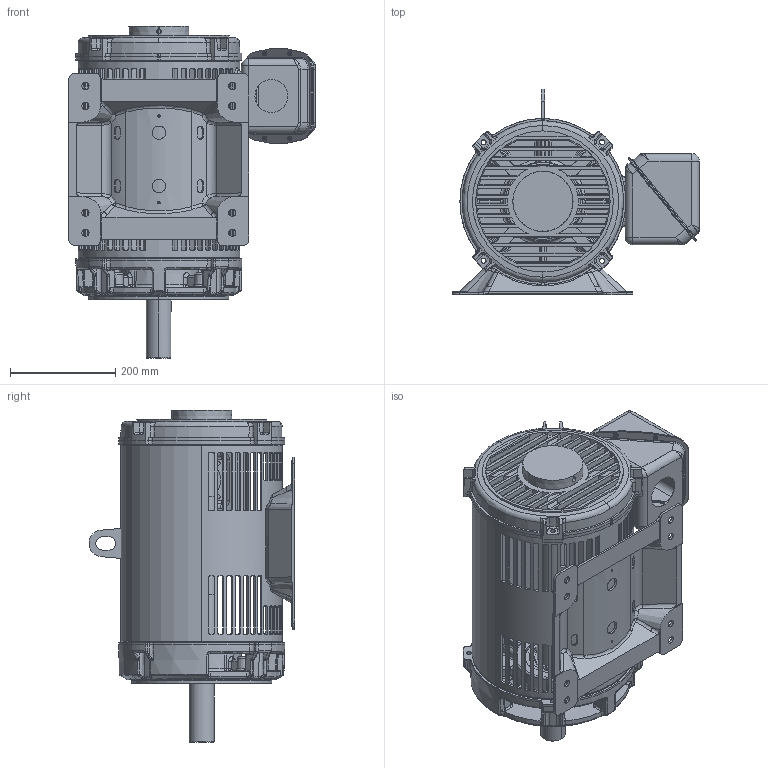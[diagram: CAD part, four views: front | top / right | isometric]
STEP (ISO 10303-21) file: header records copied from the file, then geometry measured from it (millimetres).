
FILE_DESCRIPTION((''),'2;1');
FILE_NAME('280TS_D_ASM','2014-08-06T',('NMC779F'),('Nidec Motor Corporation'),'PRO/ENGINEER BY PARAMETRIC TECHNOLOGY CORPORATION, 2013150','PRO/ENGINEER BY PARAMETRIC TECHNOLOGY CORPORATION, 2013150','');
FILE_SCHEMA(('CONFIG_CONTROL_DESIGN'));
Length unit declared in the file: inch
Products named in the file (10): 280_D_FRAME; 0910219; 0396164; 0183520; 0140997; 0391696; 0378793; 0378794; 0396168; 280TS_D_ASM
Assembly tree (9 placements, depth 2):
  280TS_D_ASM
    280_D_FRAME
    0910219
    0396164
    0183520
    0140997
    0391696
    0378793
    0378794
    0396168
Bounding box: 468.95 x 391.65 x 631.8 mm (x, y, z)
Volume: 7267044.1 mm3; surface area: 2064665.9 mm2
Topology: 11 solids, 11 shells, 2711 faces, 6978 edges, 4253 vertices
Faces by surface type: plane 836, bspline 685, cylinder 658, cone 232, torus 219, sphere 77, extrusion 4
Entity records: 109492 total; most frequent: CARTESIAN_POINT 49005, ORIENTED_EDGE 13892, DIRECTION 10938, EDGE_CURVE 6946, AXIS2_PLACEMENT_3D 4320, VERTEX_POINT 4253, EDGE_LOOP 2955, FACE_OUTER_BOUND 2711
